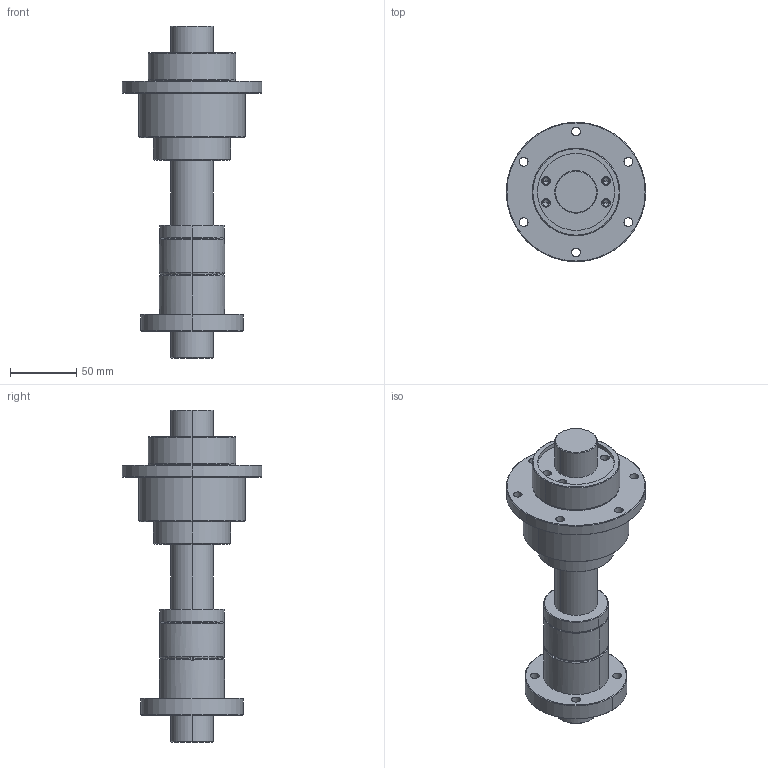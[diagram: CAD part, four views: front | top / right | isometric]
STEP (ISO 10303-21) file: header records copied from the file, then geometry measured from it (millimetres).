
FILE_DESCRIPTION (( 'STEP AP203' ), '1' );
FILE_NAME ('RBLY3232.STEP', '2014-11-13T08:57:55', ( '' ), ( '' ), 'SwSTEP 2.0', 'SolidWorks 2014', '' );
FILE_SCHEMA (( 'CONFIG_CONTROL_DESIGN' ));
Length unit declared in the file: millimetre
Products named in the file (4): RBLY3232; SC32; RFBY3232; SLF32
Assembly tree (3 placements, depth 2):
  RBLY3232
    SC32
    RFBY3232
    SLF32
Bounding box: 105 x 105 x 250 mm (x, y, z)
Volume: 609458.3 mm3; surface area: 114353.9 mm2
Topology: 5 solids, 5 shells, 167 faces, 407 edges, 253 vertices
Faces by surface type: cylinder 90, plane 33, cone 28, torus 16
Entity records: 5538 total; most frequent: CARTESIAN_POINT 1017, DIRECTION 956, ORIENTED_EDGE 798, AXIS2_PLACEMENT_3D 404, EDGE_CURVE 399, VERTEX_POINT 253, CIRCLE 231, EDGE_LOOP 210
